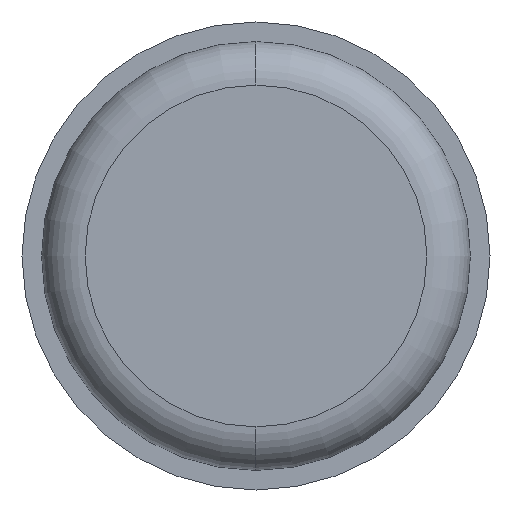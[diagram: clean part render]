
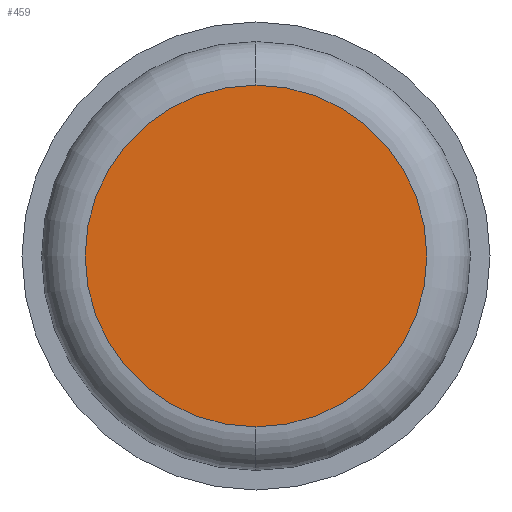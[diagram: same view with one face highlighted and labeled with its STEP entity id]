
A CAD part, left-side view. The second image highlights one B-rep face of the part: STEP entity #459.
In plain terms, the highlighted planar face has unit normal (-1, 0, 0).
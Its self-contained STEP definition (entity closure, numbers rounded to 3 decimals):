
#16 = CIRCLE ( 'NONE', #26, 3.925 ) ;
#26 = AXIS2_PLACEMENT_3D ( 'NONE', #300, #299, #298 ) ;
#39 = EDGE_CURVE ( 'NONE', #429, #417, #16, .T. ) ;
#68 = EDGE_CURVE ( 'NONE', #417, #429, #499, .T. ) ;
#154 = CARTESIAN_POINT ( 'NONE',  ( -14., 0., 0. ) ) ;
#155 = DIRECTION ( 'NONE',  ( 1., 0., 0. ) ) ;
#156 = DIRECTION ( 'NONE',  ( 0., 0., -1. ) ) ;
#171 = CARTESIAN_POINT ( 'NONE',  ( -14., 0., 3.925 ) ) ;
#184 = CARTESIAN_POINT ( 'NONE',  ( -14., 0., -3.925 ) ) ;
#216 = CARTESIAN_POINT ( 'NONE',  ( -14., 3.925, 0. ) ) ;
#217 = FACE_OUTER_BOUND ( 'NONE', #407, .T. ) ;
#219 = PLANE ( 'NONE',  #451 ) ;
#222 = DIRECTION ( 'NONE',  ( -1., 0., 0. ) ) ;
#223 = DIRECTION ( 'NONE',  ( 0., 0., 1. ) ) ;
#298 = DIRECTION ( 'NONE',  ( 0., 0., -1. ) ) ;
#299 = DIRECTION ( 'NONE',  ( 1., 0., 0. ) ) ;
#300 = CARTESIAN_POINT ( 'NONE',  ( -14., 0., 0. ) ) ;
#382 = ORIENTED_EDGE ( 'NONE', *, *, #39, .F. ) ;
#383 = ORIENTED_EDGE ( 'NONE', *, *, #68, .F. ) ;
#407 = EDGE_LOOP ( 'NONE', ( #382, #383 ) ) ;
#417 = VERTEX_POINT ( 'NONE', #171 ) ;
#429 = VERTEX_POINT ( 'NONE', #184 ) ;
#451 = AXIS2_PLACEMENT_3D ( 'NONE', #216, #222, #223 ) ;
#459 = ADVANCED_FACE ( 'NONE', ( #217 ), #219, .T. ) ;
#493 = AXIS2_PLACEMENT_3D ( 'NONE', #154, #155, #156 ) ;
#499 = CIRCLE ( 'NONE', #493, 3.925 ) ;
